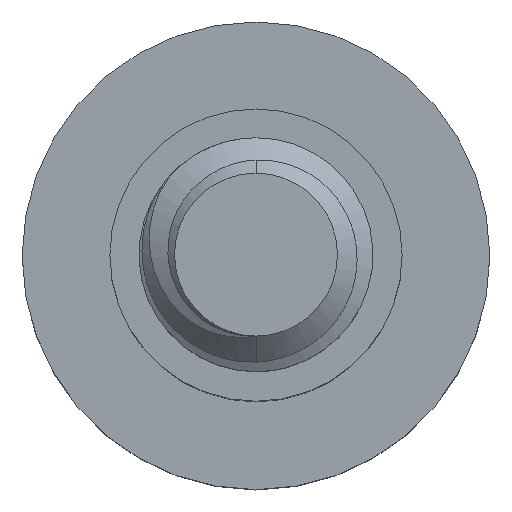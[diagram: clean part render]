
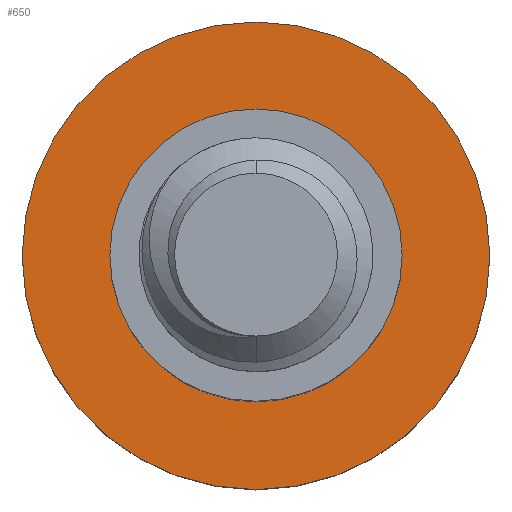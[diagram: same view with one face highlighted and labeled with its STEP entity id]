
A CAD part, top view. The second image highlights one B-rep face of the part: STEP entity #650.
In plain terms, the highlighted planar face has unit normal (0, 0, 1).
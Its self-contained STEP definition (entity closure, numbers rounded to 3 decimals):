
#124 = DIRECTION ( 'NONE',  ( -1., 0., 0. ) ) ;
#147 = CARTESIAN_POINT ( 'NONE',  ( 0., 0., -7. ) ) ;
#227 = VERTEX_POINT ( 'NONE', #725 ) ;
#247 = CIRCLE ( 'NONE', #319, 4. ) ;
#296 = DIRECTION ( 'NONE',  ( 0., 0., -1. ) ) ;
#317 = FACE_OUTER_BOUND ( 'NONE', #1499, .T. ) ;
#319 = AXIS2_PLACEMENT_3D ( 'NONE', #455, #793, #1750 ) ;
#356 = AXIS2_PLACEMENT_3D ( 'NONE', #1455, #949, #626 ) ;
#448 = VERTEX_POINT ( 'NONE', #1102 ) ;
#455 = CARTESIAN_POINT ( 'NONE',  ( 0., 0., -7. ) ) ;
#462 = DIRECTION ( 'NONE',  ( -1., 0., 0. ) ) ;
#474 = DIRECTION ( 'NONE',  ( 0., 0., -1. ) ) ;
#523 = EDGE_CURVE ( 'NONE', #448, #937, #885, .T. ) ;
#555 = EDGE_CURVE ( 'NONE', #1152, #227, #247, .T. ) ;
#622 = CARTESIAN_POINT ( 'NONE',  ( 0., 0., -7. ) ) ;
#626 = DIRECTION ( 'NONE',  ( -1., 0., 0. ) ) ;
#650 = ADVANCED_FACE ( 'NONE', ( #1819, #317 ), #1017, .F. ) ;
#656 = CARTESIAN_POINT ( 'NONE',  ( 0., 0., -7. ) ) ;
#673 = EDGE_LOOP ( 'NONE', ( #2115, #1634 ) ) ;
#725 = CARTESIAN_POINT ( 'NONE',  ( -4., 0., -7. ) ) ;
#769 = AXIS2_PLACEMENT_3D ( 'NONE', #656, #296, #124 ) ;
#793 = DIRECTION ( 'NONE',  ( 0., 0., -1. ) ) ;
#885 = CIRCLE ( 'NONE', #356, 2.5 ) ;
#937 = VERTEX_POINT ( 'NONE', #1798 ) ;
#949 = DIRECTION ( 'NONE',  ( 0., 0., -1. ) ) ;
#953 = ORIENTED_EDGE ( 'NONE', *, *, #2070, .F. ) ;
#1017 = PLANE ( 'NONE',  #2005 ) ;
#1030 = ORIENTED_EDGE ( 'NONE', *, *, #555, .F. ) ;
#1102 = CARTESIAN_POINT ( 'NONE',  ( 2.5, 0., -7. ) ) ;
#1149 = CIRCLE ( 'NONE', #1610, 4. ) ;
#1152 = VERTEX_POINT ( 'NONE', #1286 ) ;
#1286 = CARTESIAN_POINT ( 'NONE',  ( 4., 0., -7. ) ) ;
#1297 = DIRECTION ( 'NONE',  ( 0., 0., -1. ) ) ;
#1405 = CIRCLE ( 'NONE', #769, 2.5 ) ;
#1455 = CARTESIAN_POINT ( 'NONE',  ( 0., 0., -7. ) ) ;
#1499 = EDGE_LOOP ( 'NONE', ( #1030, #953 ) ) ;
#1610 = AXIS2_PLACEMENT_3D ( 'NONE', #622, #1297, #462 ) ;
#1634 = ORIENTED_EDGE ( 'NONE', *, *, #523, .T. ) ;
#1750 = DIRECTION ( 'NONE',  ( -1., 0., 0. ) ) ;
#1798 = CARTESIAN_POINT ( 'NONE',  ( -2.5, 0., -7. ) ) ;
#1819 = FACE_BOUND ( 'NONE', #673, .T. ) ;
#1980 = DIRECTION ( 'NONE',  ( -1., 0., 0. ) ) ;
#1981 = EDGE_CURVE ( 'NONE', #937, #448, #1405, .T. ) ;
#2005 = AXIS2_PLACEMENT_3D ( 'NONE', #147, #474, #1980 ) ;
#2070 = EDGE_CURVE ( 'NONE', #227, #1152, #1149, .T. ) ;
#2115 = ORIENTED_EDGE ( 'NONE', *, *, #1981, .T. ) ;
